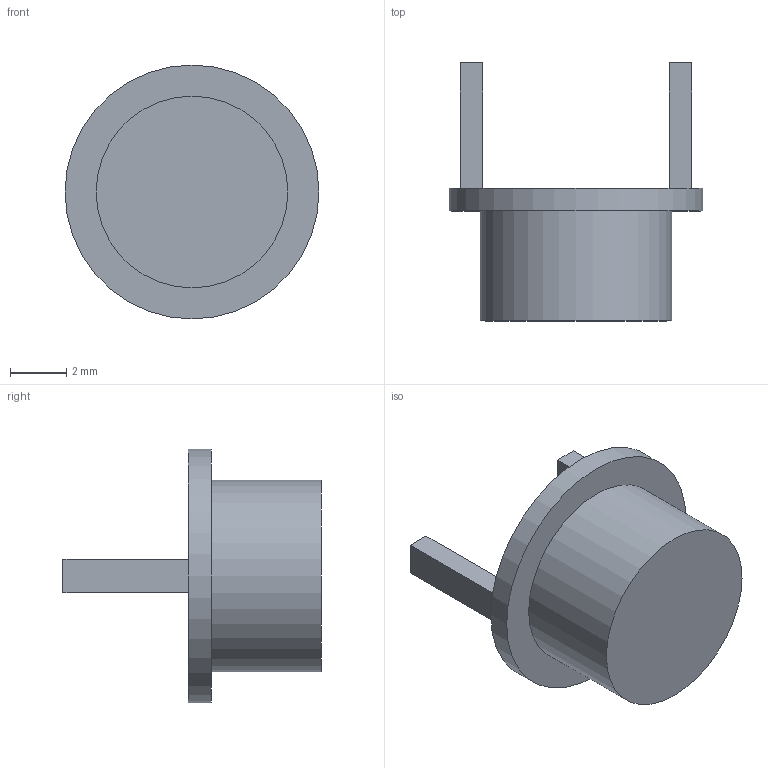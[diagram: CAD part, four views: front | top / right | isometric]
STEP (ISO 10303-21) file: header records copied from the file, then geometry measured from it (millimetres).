
FILE_DESCRIPTION(('FreeCAD Model'),'2;1');
FILE_NAME('Open CASCADE Shape Model','2026-11-17T15:16:24',('FreeCAD'),( 'FreeCAD'),'Open CASCADE STEP processor 7.8','FreeCAD','Unknown');
FILE_SCHEMA(('AUTOMOTIVE_DESIGN { 1 0 10303 214 1 1 1 1 }'));
Length unit declared in the file: millimetre
Products named in the file (1): Open CASCADE STEP translator 7.8 12
Bounding box: 9 x 9.15 x 9 mm (x, y, z)
Volume: 201.1 mm3; surface area: 268.8 mm2
Topology: 1 solids, 1 shells, 15 faces, 30 edges, 20 vertices
Faces by surface type: plane 13, cylinder 2
Full cylindrical faces by diameter (mm): 6.8 x1, 9 x1
Entity records: 398 total; most frequent: CARTESIAN_POINT 66, DIRECTION 66, ORIENTED_EDGE 60, EDGE_CURVE 30, LINE 26, VECTOR 26, AXIS2_PLACEMENT_3D 20, VERTEX_POINT 20
